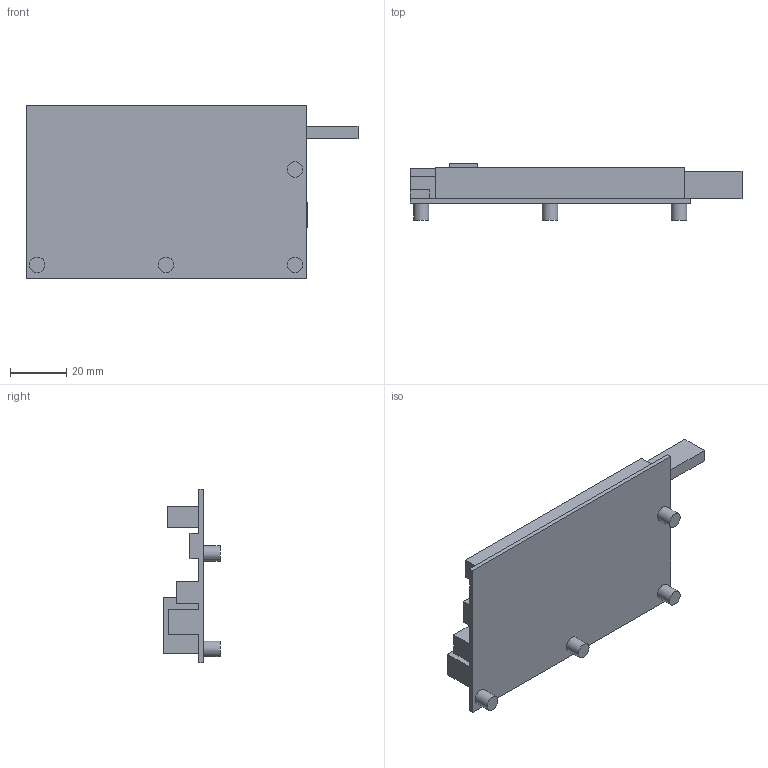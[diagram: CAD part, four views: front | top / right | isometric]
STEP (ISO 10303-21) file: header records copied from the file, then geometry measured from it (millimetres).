
FILE_DESCRIPTION(('Open CASCADE Model'),'2;1');
FILE_NAME('Open CASCADE Shape Model','2026-11-10T13:53:39',('Author'),( 'Open CASCADE'),'Open CASCADE STEP processor 7.7','Open CASCADE 7.7' ,'Unknown');
FILE_SCHEMA(('AUTOMOTIVE_DESIGN { 1 0 10303 214 1 1 1 1 }'));
Length unit declared in the file: millimetre
Products named in the file (1): Open CASCADE STEP translator 7.7 10
Bounding box: 118.5 x 20.1 x 62 mm (x, y, z)
Volume: 22763.5 mm3; surface area: 19519.8 mm2
Topology: 1 solids, 1 shells, 57 faces, 140 edges, 92 vertices
Faces by surface type: plane 53, cylinder 4
Full cylindrical faces by diameter (mm): 5.5 x4
Entity records: 3484 total; most frequent: CARTESIAN_POINT 602, DIRECTION 532, LINE 396, VECTOR 396, ORIENTED_EDGE 280, PCURVE 280, DEFINITIONAL_REPRESENTATION 280, EDGE_CURVE 140
